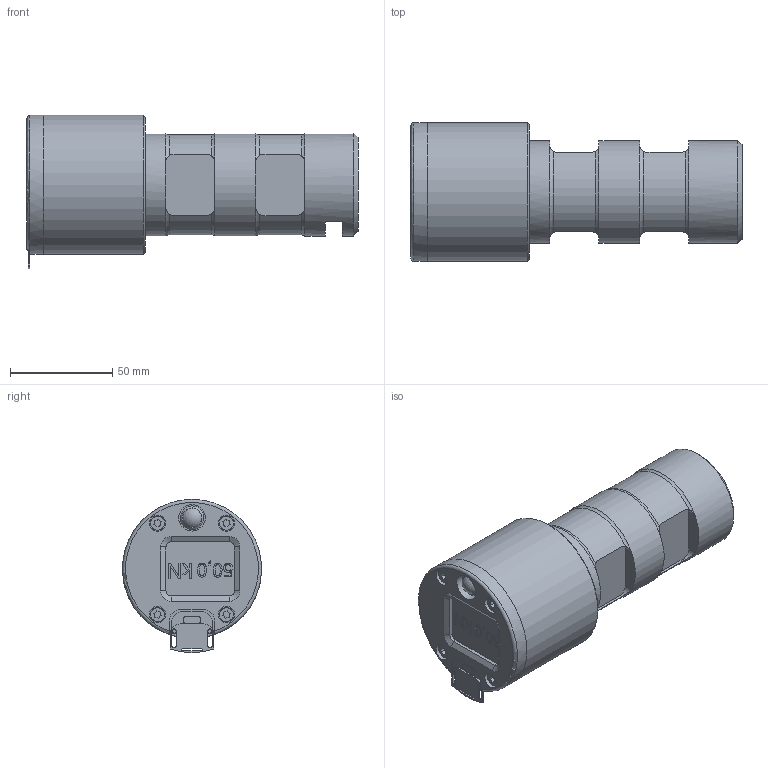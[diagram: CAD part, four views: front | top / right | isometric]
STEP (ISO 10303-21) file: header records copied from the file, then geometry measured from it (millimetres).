
FILE_DESCRIPTION(/* description */ ('Alibre Inc.'),/* implementation_level */ '2;1');
FILE_NAME(/* name */ 'export-074F0AED-EFE7-4E4D-A08D-FDC2F614F205',/* time_stamp */ '2020-01-31T13:20:57+01:00',/* author */ (''),/* organization */ (''),/* preprocessor_version */ 'ST-DEVELOPER v17',/* originating_system */ 'Alibre',/* authorisation */ '');
FILE_SCHEMA (('AUTOMOTIVE_DESIGN'));
Length unit declared in the file: centimetre
Products named in the file (11): DIN 915 - d M3 x l 8 - 45H
Bounding box: 162.4 x 68 x 74.95 mm (x, y, z)
Volume: 271382 mm3; surface area: 63024.7 mm2
Topology: 14 solids, 14 shells, 511 faces, 1247 edges, 802 vertices
Faces by surface type: plane 259, cylinder 168, bspline 41, cone 27, torus 15, sphere 1
Full cylindrical faces by diameter (mm): 1 x4, 2.459 x4, 3 x3, 3.242 x4, 4 x4, 4.2 x4, 7 x4, 7.188 x1, 8 x6, 9.4 x1, 9.6 x1, 11.6 x1, 13 x1, 50 x3, 68 x2
Entity records: 14343 total; most frequent: CARTESIAN_POINT 4220, ORIENTED_EDGE 2042, DIRECTION 1744, EDGE_CURVE 1021, VERTEX_POINT 694, AXIS2_PLACEMENT_3D 684, VECTOR 600, LINE 600
